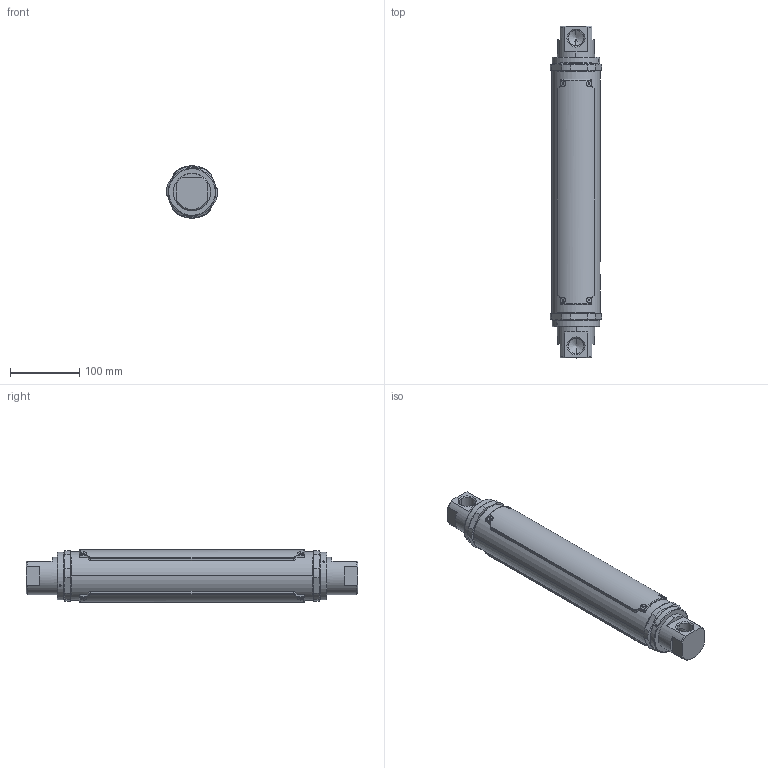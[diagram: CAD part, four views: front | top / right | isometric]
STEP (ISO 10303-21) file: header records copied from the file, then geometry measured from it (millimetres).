
FILE_DESCRIPTION (( 'STEP AP203' ), '1' );
FILE_NAME ('1610-MC-3-AA-0-0.STEP', '2023-04-12T15:18:11', ( '' ), ( '' ), 'SwSTEP 2.0', 'SolidWorks 2020', '' );
FILE_SCHEMA (( 'CONFIG_CONTROL_DESIGN' ));
Length unit declared in the file: inch
Products named in the file (1): 1610-MC-3-AA-0-0
Bounding box: 73.88 x 479.2 x 75.49 mm (x, y, z)
Volume: 560803 mm3; surface area: 383903.9 mm2
Topology: 20 solids, 20 shells, 1143 faces, 2875 edges, 1832 vertices
Faces by surface type: plane 442, cylinder 301, bspline 280, cone 104, torus 16
Entity records: 54275 total; most frequent: CARTESIAN_POINT 29674, ORIENTED_EDGE 5742, DIRECTION 4003, EDGE_CURVE 2871, VERTEX_POINT 1832, AXIS2_PLACEMENT_3D 1468, EDGE_LOOP 1297, ADVANCED_FACE 1143
